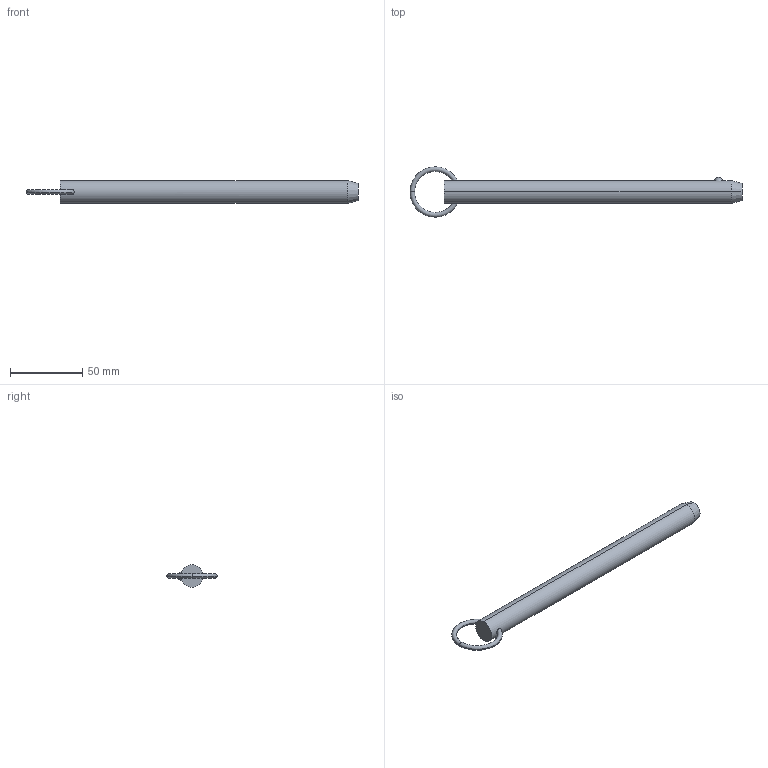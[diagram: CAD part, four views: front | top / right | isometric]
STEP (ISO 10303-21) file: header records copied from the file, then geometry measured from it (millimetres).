
FILE_DESCRIPTION (( 'STEP AP203' ), '1' );
FILE_NAME ('33010.W6270.step', '2024-11-01T10:43:00', ( '' ), ( '' ), 'SwSTEP 2.0', 'SolidWorks 2019', '' );
FILE_SCHEMA (( 'CONFIG_CONTROL_DESIGN' ));
Length unit declared in the file: millimetre
Products named in the file (3): Part1_33010.W6270; Part2_33010.W6270; 33010.W6270
Assembly tree (2 placements, depth 2):
  33010.W6270
    Part1_33010.W6270
    Part2_33010.W6270
Bounding box: 230.31 x 34.93 x 15.88 mm (x, y, z)
Volume: 41160.7 mm3; surface area: 11759.3 mm2
Topology: 2 solids, 2 shells, 16 faces, 31 edges, 18 vertices
Faces by surface type: torus 8, sphere 2, cone 2, cylinder 2, plane 2
Entity records: 889 total; most frequent: CARTESIAN_POINT 246, DIRECTION 88, ORIENTED_EDGE 62, AXIS2_PLACEMENT_3D 42, EDGE_CURVE 31, PERSON_AND_ORGANIZATION 26, CIRCLE 21, COORDINATED_UNIVERSAL_TIME_OFFSET 19
